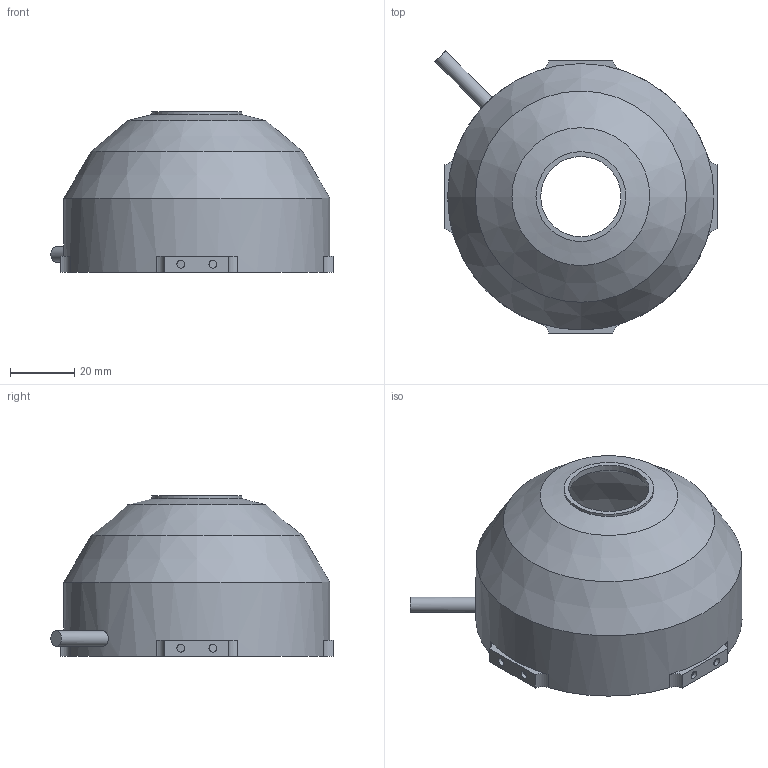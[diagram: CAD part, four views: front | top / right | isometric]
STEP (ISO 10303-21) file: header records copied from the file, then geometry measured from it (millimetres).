
FILE_DESCRIPTION( ( '' ), '1' );
FILE_NAME( 'L:/01_Produktserie LUMIMAX/DOM-Serie/DOM CD50/03_Konstruktion/DOM CD50 01_Download & Katalog/DOM CD50-DOM CD50FL.stp', '%{Zugriffsdatum}', ( 'Christian Koch' ), ( 'iiM AG' ), 'PSStep 13.0', 'Solid Edge', ' ' );
FILE_SCHEMA( ( 'AUTOMOTIVE_DESIGN { 1 0 10303 214 1 1 1 1 }' ) );
Length unit declared in the file: millimetre
Products named in the file (1): 1
Bounding box: 88.04 x 88.04 x 50 mm (x, y, z)
Volume: 59968.3 mm3; surface area: 32747.7 mm2
Topology: 1 solids, 13 shells, 87 faces, 170 edges, 113 vertices
Faces by surface type: cylinder 61, plane 13, cone 12, sphere 1
Full cylindrical faces by diameter (mm): 1.567 x4, 2.459 x17, 4.134 x1, 4.8 x1, 25 x1, 28 x1, 50 x1, 83 x1
Entity records: 3480 total; most frequent: CARTESIAN_POINT 1273, DIRECTION 310, ORIENTED_EDGE 218, AXIS2_PLACEMENT_3D 142, EDGE_LOOP 132, FACE_OUTER_BOUND 115, EDGE_CURVE 109, VERTEX_POINT 99
